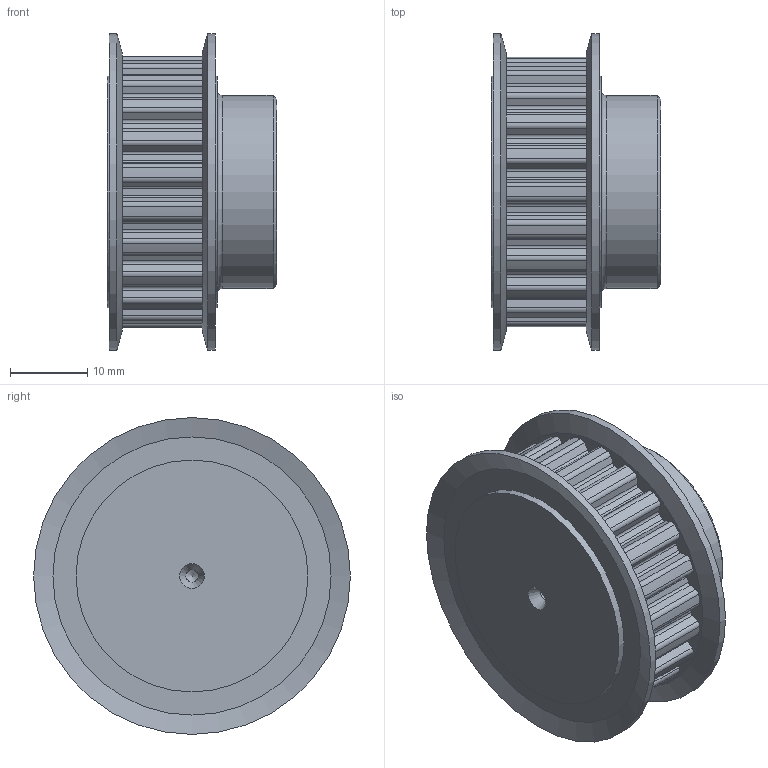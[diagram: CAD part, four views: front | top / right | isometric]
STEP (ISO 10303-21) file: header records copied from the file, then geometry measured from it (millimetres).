
FILE_DESCRIPTION(/* description */ ('PULEGGE 22 XL 037 F'),/* implementation_level */ '2;1');
FILE_NAME(/* name */ 'w:\documenti\Disegni dwg\Catalogo\Pulegge\XL\037\stp\42037022.stp',/* time_stamp */ '2023-05-22T15:32:33+02:00',/* author */ ('carlo.bersi'),/* organization */ (''),/* preprocessor_version */ 'ST-DEVELOPER v19',/* originating_system */ 'Autodesk Inventor 2023',/* authorisation */ '');
FILE_SCHEMA (('CONFIG_CONTROL_DESIGN'));
Length unit declared in the file: millimetre
Products named in the file (3): 42037022; 42037022_1; 49200010
Assembly tree (3 placements, depth 2):
  42037022
    42037022_1
    49200010  x2
Bounding box: 22 x 41 x 41 mm (x, y, z)
Volume: 16998.4 mm3; surface area: 7208.3 mm2
Topology: 3 solids, 3 shells, 204 faces, 576 edges, 381 vertices
Faces by surface type: cylinder 119, plane 75, cone 9, torus 1
Full cylindrical faces by diameter (mm): 1.6 x2, 25 x1, 30 x4, 41 x2
Entity records: 6674 total; most frequent: DIRECTION 1214, CARTESIAN_POINT 1143, ORIENTED_EDGE 1128, EDGE_CURVE 564, AXIS2_PLACEMENT_3D 446, VERTEX_POINT 375, LINE 322, VECTOR 322
